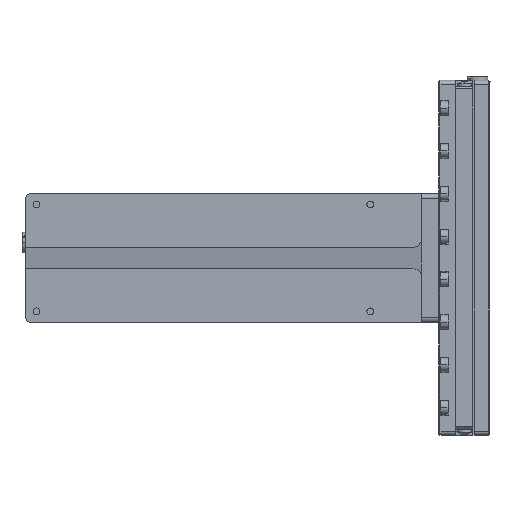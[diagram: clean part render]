
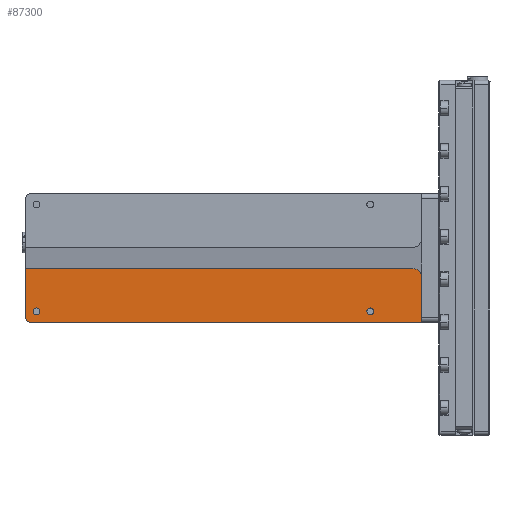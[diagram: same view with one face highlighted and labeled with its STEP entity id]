
A CAD part, left-side view. The second image highlights one B-rep face of the part: STEP entity #87300.
In plain terms, the highlighted planar face has unit normal (-1, 0, 0).
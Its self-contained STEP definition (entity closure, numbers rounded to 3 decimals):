
#795 = VERTEX_POINT ( 'NONE', #152589 ) ;
#1575 = VECTOR ( 'NONE', #167733, 1000. ) ;
#1582 = EDGE_CURVE ( 'NONE', #103581, #124289, #99024, .T. ) ;
#1624 = DIRECTION ( 'NONE',  ( 0., 0., -1. ) ) ;
#3509 = CIRCLE ( 'NONE', #91228, 1. ) ;
#4738 = DIRECTION ( 'NONE',  ( 1., 0., 0. ) ) ;
#4755 = DIRECTION ( 'NONE',  ( -1., 0., 0. ) ) ;
#7944 = ORIENTED_EDGE ( 'NONE', *, *, #107049, .T. ) ;
#12600 = EDGE_CURVE ( 'NONE', #124289, #103581, #109448, .T. ) ;
#13618 = DIRECTION ( 'NONE',  ( 0., 1., 0. ) ) ;
#13850 = AXIS2_PLACEMENT_3D ( 'NONE', #16969, #131188, #30635 ) ;
#16526 = FACE_BOUND ( 'NONE', #176095, .T. ) ;
#16969 = CARTESIAN_POINT ( 'NONE',  ( 40.931, 28.536, -12.51 ) ) ;
#18212 = DIRECTION ( 'NONE',  ( 0., 0., -1. ) ) ;
#19608 = ORIENTED_EDGE ( 'NONE', *, *, #136133, .T. ) ;
#23760 = AXIS2_PLACEMENT_3D ( 'NONE', #53881, #123334, #40131 ) ;
#23897 = LINE ( 'NONE', #80289, #1575 ) ;
#28000 = CARTESIAN_POINT ( 'NONE',  ( 40.931, 108.036, -15.01 ) ) ;
#29273 = EDGE_LOOP ( 'NONE', ( #45737, #50430 ) ) ;
#30352 = AXIS2_PLACEMENT_3D ( 'NONE', #45819, #143334, #1624 ) ;
#30574 = VERTEX_POINT ( 'NONE', #144442 ) ;
#30635 = DIRECTION ( 'NONE',  ( 0., 0., -1. ) ) ;
#33582 = VERTEX_POINT ( 'NONE', #139716 ) ;
#34493 = DIRECTION ( 'NONE',  ( 0., 0., -1. ) ) ;
#35095 = LINE ( 'NONE', #142167, #182608 ) ;
#37211 = CARTESIAN_POINT ( 'NONE',  ( 40.931, 28.536, -11.71 ) ) ;
#38122 = EDGE_LOOP ( 'NONE', ( #19608, #74472, #122420, #91579, #7944, #84372 ) ) ;
#39311 = CARTESIAN_POINT ( 'NONE',  ( 40.931, 109.036, 14.99 ) ) ;
#39729 = EDGE_CURVE ( 'NONE', #30574, #84439, #3509, .T. ) ;
#40091 = EDGE_CURVE ( 'NONE', #153320, #69124, #144104, .T. ) ;
#40131 = DIRECTION ( 'NONE',  ( 0., 0., -1. ) ) ;
#45737 = ORIENTED_EDGE ( 'NONE', *, *, #66805, .T. ) ;
#45819 = CARTESIAN_POINT ( 'NONE',  ( 40.931, 18.536, -4.51 ) ) ;
#47680 = DIRECTION ( 'NONE',  ( 0., 0., -1. ) ) ;
#50430 = ORIENTED_EDGE ( 'NONE', *, *, #40091, .T. ) ;
#53881 = CARTESIAN_POINT ( 'NONE',  ( 40.931, 16.536, 14.99 ) ) ;
#53992 = CARTESIAN_POINT ( 'NONE',  ( 40.931, 106.536, -13.31 ) ) ;
#57463 = CARTESIAN_POINT ( 'NONE',  ( 40.931, 28.536, -12.51 ) ) ;
#65683 = CARTESIAN_POINT ( 'NONE',  ( 40.931, 18.536, -2.51 ) ) ;
#66262 = ORIENTED_EDGE ( 'NONE', *, *, #1582, .T. ) ;
#66805 = EDGE_CURVE ( 'NONE', #69124, #153320, #80761, .T. ) ;
#69124 = VERTEX_POINT ( 'NONE', #177292 ) ;
#74472 = ORIENTED_EDGE ( 'NONE', *, *, #39729, .T. ) ;
#74828 = EDGE_CURVE ( 'NONE', #33582, #156545, #93836, .T. ) ;
#80031 = DIRECTION ( 'NONE',  ( 0., 0., -1. ) ) ;
#80289 = CARTESIAN_POINT ( 'NONE',  ( 40.931, 16.536, -15.01 ) ) ;
#80761 = CIRCLE ( 'NONE', #13850, 0.8 ) ;
#84372 = ORIENTED_EDGE ( 'NONE', *, *, #144531, .T. ) ;
#84439 = VERTEX_POINT ( 'NONE', #28000 ) ;
#86806 = DIRECTION ( 'NONE',  ( 0., 0., -1. ) ) ;
#87300 = ADVANCED_FACE ( 'NONE', ( #16526, #121544, #134915 ), #110220, .F. ) ;
#88983 = AXIS2_PLACEMENT_3D ( 'NONE', #90103, #4738, #34493 ) ;
#89369 = VECTOR ( 'NONE', #18212, 1000. ) ;
#90103 = CARTESIAN_POINT ( 'NONE',  ( 40.931, 106.536, -12.51 ) ) ;
#91228 = AXIS2_PLACEMENT_3D ( 'NONE', #176969, #4755, #47680 ) ;
#91579 = ORIENTED_EDGE ( 'NONE', *, *, #74828, .F. ) ;
#93836 = LINE ( 'NONE', #102508, #89369 ) ;
#95360 = VECTOR ( 'NONE', #80031, 1000. ) ;
#99024 = CIRCLE ( 'NONE', #88983, 0.8 ) ;
#102508 = CARTESIAN_POINT ( 'NONE',  ( 40.931, 16.536, 14.99 ) ) ;
#102649 = DIRECTION ( 'NONE',  ( 0., 0., -1. ) ) ;
#103581 = VERTEX_POINT ( 'NONE', #53992 ) ;
#107049 = EDGE_CURVE ( 'NONE', #33582, #123477, #167811, .T. ) ;
#109448 = CIRCLE ( 'NONE', #166224, 0.8 ) ;
#110220 = PLANE ( 'NONE',  #23760 ) ;
#121544 = FACE_BOUND ( 'NONE', #29273, .T. ) ;
#122420 = ORIENTED_EDGE ( 'NONE', *, *, #147455, .T. ) ;
#123334 = DIRECTION ( 'NONE',  ( 1., 0., 0. ) ) ;
#123477 = VERTEX_POINT ( 'NONE', #65683 ) ;
#124289 = VERTEX_POINT ( 'NONE', #159835 ) ;
#126726 = CARTESIAN_POINT ( 'NONE',  ( 40.931, 16.536, -15.01 ) ) ;
#129289 = DIRECTION ( 'NONE',  ( 1., 0., 0. ) ) ;
#131188 = DIRECTION ( 'NONE',  ( 1., 0., 0. ) ) ;
#131328 = DIRECTION ( 'NONE',  ( 1., 0., 0. ) ) ;
#134915 = FACE_OUTER_BOUND ( 'NONE', #38122, .T. ) ;
#136133 = EDGE_CURVE ( 'NONE', #795, #30574, #138038, .T. ) ;
#138038 = LINE ( 'NONE', #39311, #95360 ) ;
#139716 = CARTESIAN_POINT ( 'NONE',  ( 40.931, 16.536, -4.51 ) ) ;
#142167 = CARTESIAN_POINT ( 'NONE',  ( 40.931, 109.036, -2.51 ) ) ;
#143334 = DIRECTION ( 'NONE',  ( -1., 0., 0. ) ) ;
#143749 = ORIENTED_EDGE ( 'NONE', *, *, #12600, .T. ) ;
#144075 = AXIS2_PLACEMENT_3D ( 'NONE', #57463, #129289, #86806 ) ;
#144104 = CIRCLE ( 'NONE', #144075, 0.8 ) ;
#144442 = CARTESIAN_POINT ( 'NONE',  ( 40.931, 109.036, -14.01 ) ) ;
#144531 = EDGE_CURVE ( 'NONE', #123477, #795, #35095, .T. ) ;
#145123 = CARTESIAN_POINT ( 'NONE',  ( 40.931, 106.536, -12.51 ) ) ;
#147455 = EDGE_CURVE ( 'NONE', #84439, #156545, #23897, .T. ) ;
#152589 = CARTESIAN_POINT ( 'NONE',  ( 40.931, 109.036, -2.51 ) ) ;
#153320 = VERTEX_POINT ( 'NONE', #37211 ) ;
#156545 = VERTEX_POINT ( 'NONE', #126726 ) ;
#159835 = CARTESIAN_POINT ( 'NONE',  ( 40.931, 106.536, -11.71 ) ) ;
#166224 = AXIS2_PLACEMENT_3D ( 'NONE', #145123, #131328, #102649 ) ;
#167733 = DIRECTION ( 'NONE',  ( 0., -1., 0. ) ) ;
#167811 = CIRCLE ( 'NONE', #30352, 2. ) ;
#176095 = EDGE_LOOP ( 'NONE', ( #66262, #143749 ) ) ;
#176969 = CARTESIAN_POINT ( 'NONE',  ( 40.931, 108.036, -14.01 ) ) ;
#177292 = CARTESIAN_POINT ( 'NONE',  ( 40.931, 28.536, -13.31 ) ) ;
#182608 = VECTOR ( 'NONE', #13618, 1000. ) ;
